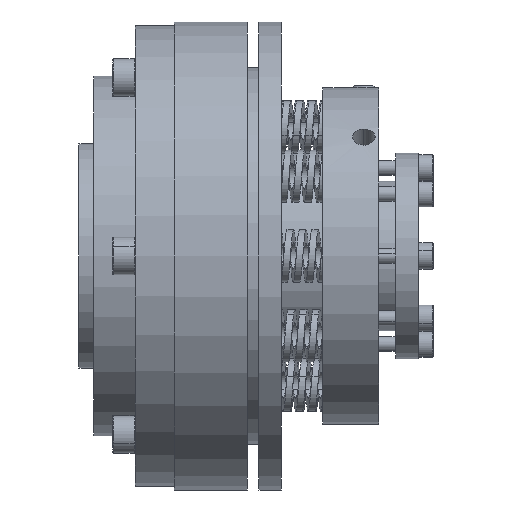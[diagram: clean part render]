
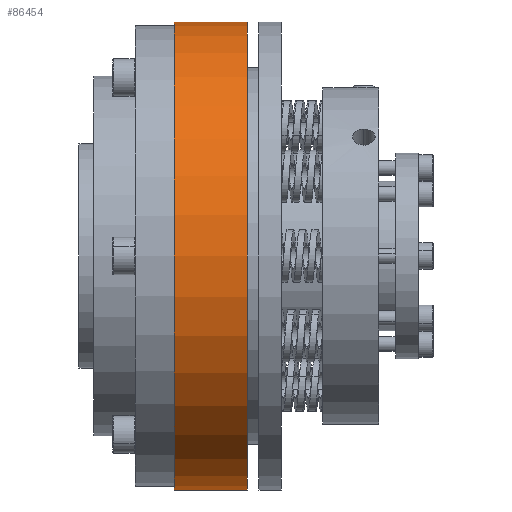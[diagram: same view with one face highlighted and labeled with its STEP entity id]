
A CAD part, front view. The second image highlights one B-rep face of the part: STEP entity #86454.
In plain terms, the highlighted cylindrical face has radius 62.5 mm (diameter 125 mm), a partial arc.
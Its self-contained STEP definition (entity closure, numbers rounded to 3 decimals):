
#318 = AXIS2_PLACEMENT_3D ( 'NONE', #39989, #59541, #26599 ) ;
#5600 = DIRECTION ( 'NONE',  ( 0., 0., 1. ) ) ;
#6020 = VERTEX_POINT ( 'NONE', #17132 ) ;
#7234 = VERTEX_POINT ( 'NONE', #11249 ) ;
#11249 = CARTESIAN_POINT ( 'NONE',  ( 45., 0., -62.5 ) ) ;
#17132 = CARTESIAN_POINT ( 'NONE',  ( 25.5, 0., -62.5 ) ) ;
#17310 = CARTESIAN_POINT ( 'NONE',  ( 0., 0., 62.5 ) ) ;
#17387 = CARTESIAN_POINT ( 'NONE',  ( 45., 0., 62.5 ) ) ;
#18150 = LINE ( 'NONE', #17310, #49444 ) ;
#21048 = CARTESIAN_POINT ( 'NONE',  ( 25.5, 0., 62.5 ) ) ;
#21350 = EDGE_CURVE ( 'NONE', #7234, #6020, #62408, .T. ) ;
#23416 = DIRECTION ( 'NONE',  ( -1., 0., 0. ) ) ;
#24569 = ORIENTED_EDGE ( 'NONE', *, *, #53177, .F. ) ;
#26313 = DIRECTION ( 'NONE',  ( -1., 0., 0. ) ) ;
#26599 = DIRECTION ( 'NONE',  ( 0., 0., 1. ) ) ;
#33548 = FACE_OUTER_BOUND ( 'NONE', #55371, .T. ) ;
#37491 = VECTOR ( 'NONE', #23416, 1000. ) ;
#39989 = CARTESIAN_POINT ( 'NONE',  ( 45., 0., 0. ) ) ;
#42325 = ORIENTED_EDGE ( 'NONE', *, *, #55259, .T. ) ;
#43409 = VERTEX_POINT ( 'NONE', #21048 ) ;
#46217 = AXIS2_PLACEMENT_3D ( 'NONE', #66187, #26313, #72901 ) ;
#46492 = VERTEX_POINT ( 'NONE', #17387 ) ;
#47645 = CIRCLE ( 'NONE', #46217, 62.5 ) ;
#49444 = VECTOR ( 'NONE', #82895, 1000. ) ;
#50558 = ORIENTED_EDGE ( 'NONE', *, *, #21350, .F. ) ;
#53177 = EDGE_CURVE ( 'NONE', #6020, #43409, #47645, .T. ) ;
#55259 = EDGE_CURVE ( 'NONE', #46492, #43409, #18150, .T. ) ;
#55371 = EDGE_LOOP ( 'NONE', ( #50558, #74177, #42325, #24569 ) ) ;
#59541 = DIRECTION ( 'NONE',  ( -1., 0., 0. ) ) ;
#62408 = LINE ( 'NONE', #63955, #37491 ) ;
#63955 = CARTESIAN_POINT ( 'NONE',  ( 0., 0., -62.5 ) ) ;
#66187 = CARTESIAN_POINT ( 'NONE',  ( 25.5, 0., 0. ) ) ;
#66688 = DIRECTION ( 'NONE',  ( -1., 0., 0. ) ) ;
#66866 = CYLINDRICAL_SURFACE ( 'NONE', #78401, 62.5 ) ;
#71051 = EDGE_CURVE ( 'NONE', #7234, #46492, #79209, .T. ) ;
#72556 = CARTESIAN_POINT ( 'NONE',  ( 0., 0., 0. ) ) ;
#72901 = DIRECTION ( 'NONE',  ( 0., 0., 1. ) ) ;
#74177 = ORIENTED_EDGE ( 'NONE', *, *, #71051, .T. ) ;
#78401 = AXIS2_PLACEMENT_3D ( 'NONE', #72556, #66688, #5600 ) ;
#79209 = CIRCLE ( 'NONE', #318, 62.5 ) ;
#82895 = DIRECTION ( 'NONE',  ( -1., 0., 0. ) ) ;
#86454 = ADVANCED_FACE ( 'NONE', ( #33548 ), #66866, .T. ) ;
